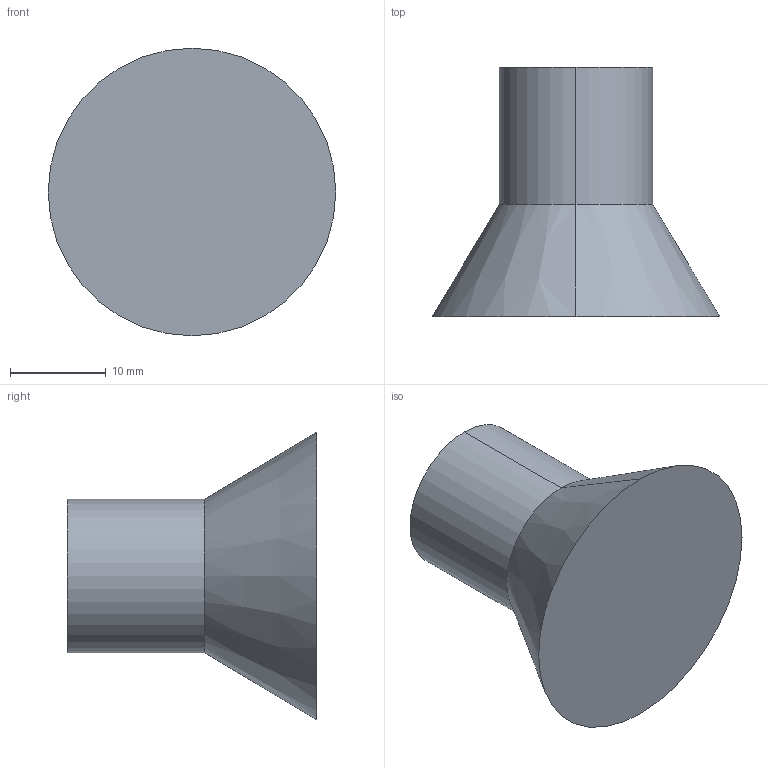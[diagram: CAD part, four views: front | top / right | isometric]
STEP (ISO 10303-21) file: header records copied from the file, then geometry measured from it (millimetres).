
FILE_DESCRIPTION( ( '' ), '1' );
FILE_NAME( 'C:/Documents and Settings/Nikhil/Desktop/Nik/Done/9070735.stp', '2013-10-24T04:10:13', ( '' ), ( '' ), ' ', ' ', ' ' );
FILE_SCHEMA( ( 'automotive_design' ) );
Length unit declared in the file: millimetre
Products named in the file (1): 1
Bounding box: 30 x 26 x 30 mm (x, y, z)
Volume: 7748.9 mm3; surface area: 2721.8 mm2
Topology: 1 solids, 1 shells, 9 faces, 16 edges, 10 vertices
Faces by surface type: cylinder 4, plane 3, cone 2
Entity records: 450 total; most frequent: DIRECTION 46, STYLED_ITEM 36, PRESENTATION_STYLE_ASSIGNMENT 36, CARTESIAN_POINT 36, COLOUR_RGB 36, ORIENTED_EDGE 32, AXIS2_PLACEMENT_3D 20, EDGE_CURVE 16
